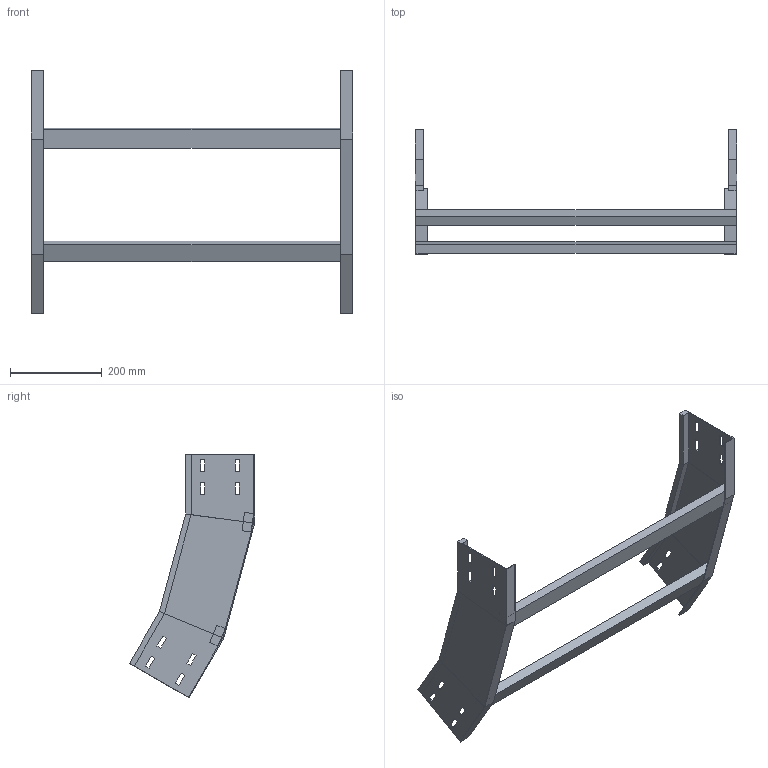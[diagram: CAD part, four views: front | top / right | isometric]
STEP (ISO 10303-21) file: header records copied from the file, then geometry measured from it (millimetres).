
FILE_DESCRIPTION (( 'STEP AP214' ), '1' );
FILE_NAME ('32J5F700.step', '2025-02-21T16:25:58', ( '' ), ( '' ), 'SwSTEP 2.0', 'SolidWorks 2023', '' );
FILE_SCHEMA (( 'AUTOMOTIVE_DESIGN' ));
Length unit declared in the file: millimetre
Products named in the file (3): TRAVERSINO_700; 32J5F700; LONGH.SALITA_30°_H150_R500
Assembly tree (4 placements, depth 2):
  32J5F700
    LONGH.SALITA_30°_H150_R500  x2
    TRAVERSINO_700  x2
Bounding box: 700 x 271.94 x 530.08 mm (x, y, z)
Volume: 1673406.5 mm3; surface area: 571444.7 mm2
Topology: 4 solids, 4 shells, 128 faces, 328 edges, 208 vertices
Faces by surface type: plane 128
Entity records: 2016 total; most frequent: CARTESIAN_POINT 339, ORIENTED_EDGE 328, DIRECTION 306, VECTOR 164, LINE 164, EDGE_CURVE 164, VERTEX_POINT 104, EDGE_LOOP 80
